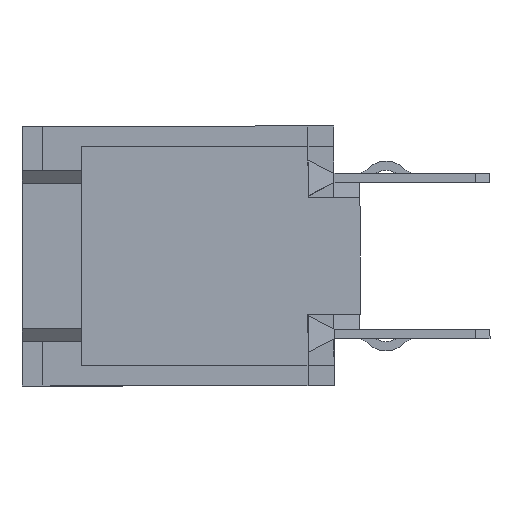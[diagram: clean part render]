
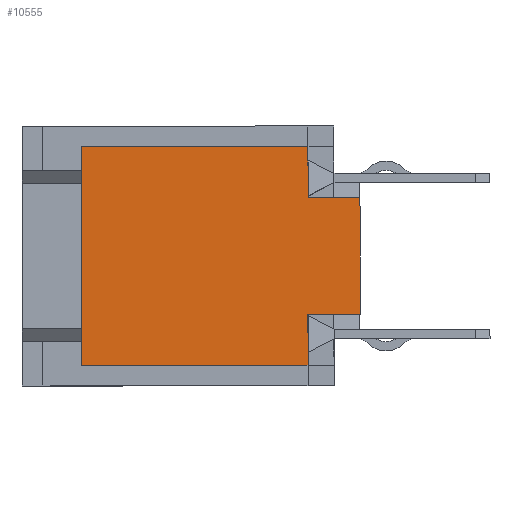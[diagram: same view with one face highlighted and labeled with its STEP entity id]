
A CAD part, left-side view. The second image highlights one B-rep face of the part: STEP entity #10555.
In plain terms, the highlighted planar face has unit normal (-1, 0, 0).
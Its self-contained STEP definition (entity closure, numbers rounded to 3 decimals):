
#1167 = DIRECTION ( 'NONE',  ( 0., -1., 0. ) ) ;
#1168 = VECTOR ( 'NONE', #1167, 1000. ) ;
#1169 = CARTESIAN_POINT ( 'NONE',  ( -16., 2., -2.25 ) ) ;
#1170 = LINE ( 'NONE', #1169, #1168 ) ;
#1172 = CARTESIAN_POINT ( 'NONE',  ( -16., 2., -2.25 ) ) ;
#1313 = DIRECTION ( 'NONE',  ( 0., -1., 0. ) ) ;
#1314 = VECTOR ( 'NONE', #1313, 1000. ) ;
#1315 = CARTESIAN_POINT ( 'NONE',  ( -16., 2., -4.2 ) ) ;
#1316 = LINE ( 'NONE', #1315, #1314 ) ;
#1317 = CARTESIAN_POINT ( 'NONE',  ( -16., 2., -4.2 ) ) ;
#1318 = CARTESIAN_POINT ( 'NONE',  ( -16., 10.7, -4.2 ) ) ;
#1349 = DIRECTION ( 'NONE',  ( 0., 1., 0. ) ) ;
#1350 = VECTOR ( 'NONE', #1349, 1000. ) ;
#1351 = CARTESIAN_POINT ( 'NONE',  ( -16., 2., 2.25 ) ) ;
#1352 = LINE ( 'NONE', #1351, #1350 ) ;
#1393 = CARTESIAN_POINT ( 'NONE',  ( -16., 2., 2.25 ) ) ;
#5472 = DIRECTION ( 'NONE',  ( 0., 0., -1. ) ) ;
#5473 = VECTOR ( 'NONE', #5472, 1000. ) ;
#5474 = CARTESIAN_POINT ( 'NONE',  ( -16., 10.7, -4.2 ) ) ;
#5475 = LINE ( 'NONE', #5474, #5473 ) ;
#5476 = DIRECTION ( 'NONE',  ( 0., 0., 1. ) ) ;
#5477 = VECTOR ( 'NONE', #5476, 1000. ) ;
#5478 = CARTESIAN_POINT ( 'NONE',  ( -16., 2., 4.2 ) ) ;
#5479 = LINE ( 'NONE', #5478, #5477 ) ;
#5480 = DIRECTION ( 'NONE',  ( 0., -1., 0. ) ) ;
#5481 = VECTOR ( 'NONE', #5480, 1000. ) ;
#5482 = CARTESIAN_POINT ( 'NONE',  ( -16., 2., 4.2 ) ) ;
#5483 = LINE ( 'NONE', #5482, #5481 ) ;
#5495 = CARTESIAN_POINT ( 'NONE',  ( -16., 10.7, 4.2 ) ) ;
#5604 = FACE_OUTER_BOUND ( 'NONE', #10556, .T. ) ;
#5638 = CARTESIAN_POINT ( 'NONE',  ( -16., 2., 4.2 ) ) ;
#5639 = DIRECTION ( 'NONE',  ( 0., 0., 1. ) ) ;
#5640 = VECTOR ( 'NONE', #5639, 1000. ) ;
#5641 = CARTESIAN_POINT ( 'NONE',  ( -16., 2., 4.2 ) ) ;
#5642 = LINE ( 'NONE', #5641, #5640 ) ;
#5643 = DIRECTION ( 'NONE',  ( 0., 0., 1. ) ) ;
#5644 = DIRECTION ( 'NONE',  ( -1., 0., 0. ) ) ;
#5645 = CARTESIAN_POINT ( 'NONE',  ( -16., 2., -4.2 ) ) ;
#5646 = AXIS2_PLACEMENT_3D ( 'NONE', #5645, #5644, #5643 ) ;
#5647 = PLANE ( 'NONE',  #5646 ) ;
#6184 = CARTESIAN_POINT ( 'NONE',  ( -16., 0., -2.25 ) ) ;
#6201 = CARTESIAN_POINT ( 'NONE',  ( -16., 0., 2.25 ) ) ;
#6331 = DIRECTION ( 'NONE',  ( 0., 0., 1. ) ) ;
#6332 = VECTOR ( 'NONE', #6331, 1000. ) ;
#6333 = CARTESIAN_POINT ( 'NONE',  ( -16., 0., -4.2 ) ) ;
#6334 = LINE ( 'NONE', #6333, #6332 ) ;
#9079 = VERTEX_POINT ( 'NONE', #1172 ) ;
#9081 = EDGE_CURVE ( 'NONE', #9079, #10793, #1170, .T. ) ;
#9123 = VERTEX_POINT ( 'NONE', #1318 ) ;
#9124 = VERTEX_POINT ( 'NONE', #1317 ) ;
#9125 = EDGE_CURVE ( 'NONE', #9123, #9124, #1316, .T. ) ;
#9135 = EDGE_CURVE ( 'NONE', #10816, #9138, #1352, .T. ) ;
#9138 = VERTEX_POINT ( 'NONE', #1393 ) ;
#10478 = ORIENTED_EDGE ( 'NONE', *, *, #10479, .F. ) ;
#10479 = EDGE_CURVE ( 'NONE', #10506, #10561, #5483, .T. ) ;
#10480 = ORIENTED_EDGE ( 'NONE', *, *, #10484, .T. ) ;
#10481 = ORIENTED_EDGE ( 'NONE', *, *, #9125, .T. ) ;
#10482 = ORIENTED_EDGE ( 'NONE', *, *, #10483, .T. ) ;
#10483 = EDGE_CURVE ( 'NONE', #9124, #9079, #5479, .T. ) ;
#10484 = EDGE_CURVE ( 'NONE', #10506, #9123, #5475, .T. ) ;
#10506 = VERTEX_POINT ( 'NONE', #5495 ) ;
#10544 = ORIENTED_EDGE ( 'NONE', *, *, #9081, .T. ) ;
#10555 = ADVANCED_FACE ( 'NONE', ( #5604 ), #5647, .T. ) ;
#10556 = EDGE_LOOP ( 'NONE', ( #10557, #10558, #10559, #10478, #10480, #10481, #10482, #10544 ) ) ;
#10557 = ORIENTED_EDGE ( 'NONE', *, *, #10835, .T. ) ;
#10558 = ORIENTED_EDGE ( 'NONE', *, *, #9135, .T. ) ;
#10559 = ORIENTED_EDGE ( 'NONE', *, *, #10560, .T. ) ;
#10560 = EDGE_CURVE ( 'NONE', #9138, #10561, #5642, .T. ) ;
#10561 = VERTEX_POINT ( 'NONE', #5638 ) ;
#10793 = VERTEX_POINT ( 'NONE', #6184 ) ;
#10816 = VERTEX_POINT ( 'NONE', #6201 ) ;
#10835 = EDGE_CURVE ( 'NONE', #10793, #10816, #6334, .T. ) ;
